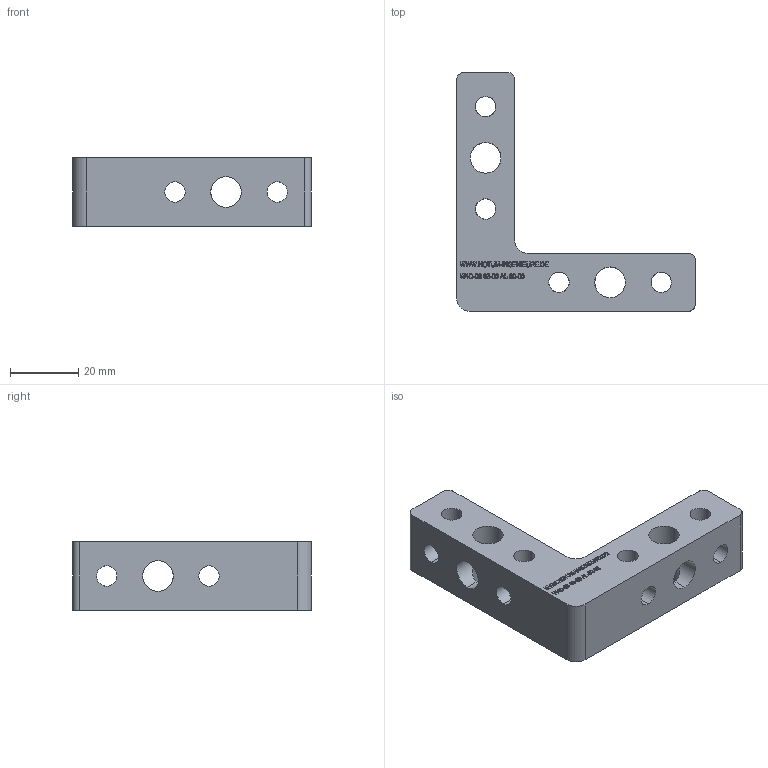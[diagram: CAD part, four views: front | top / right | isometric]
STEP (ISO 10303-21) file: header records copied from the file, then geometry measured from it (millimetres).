
FILE_DESCRIPTION (( 'STEP AP214' ), '1' );
FILE_NAME ('W4D-08-03-00-AL-00-00__Notum.STEP', '2018-03-29T11:17:57', ( '' ), ( '' ), 'SwSTEP 2.0', 'SolidWorks 2015', '' );
FILE_SCHEMA (( 'AUTOMOTIVE_DESIGN' ));
Length unit declared in the file: millimetre
Products named in the file (1): W4D-08-03-00-AL-00-00__Notum
Bounding box: 70 x 70 x 20 mm (x, y, z)
Volume: 34396.5 mm3; surface area: 12473.5 mm2
Topology: 1 solids, 1 shells, 570 faces, 1524 edges, 1004 vertices
Faces by surface type: plane 348, bspline 168, cylinder 54
Entity records: 32246 total; most frequent: CARTESIAN_POINT 13395, ORIENTED_EDGE 3048, DIRECTION 2006, EDGE_CURVE 1524, VECTOR 1080, LINE 1080, VERTEX_POINT 1004, EDGE_LOOP 654
